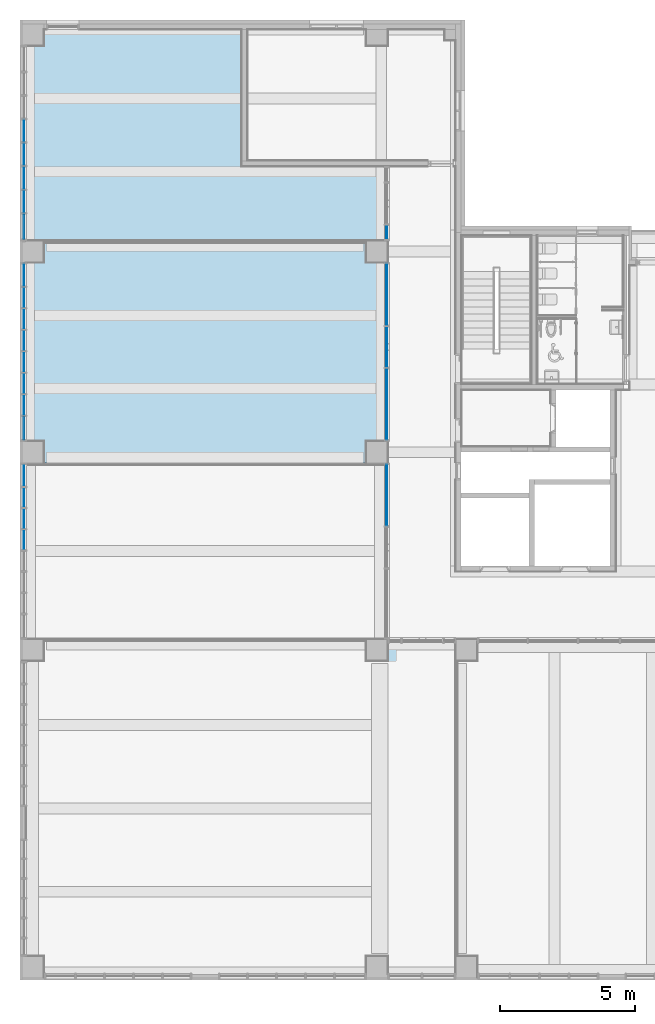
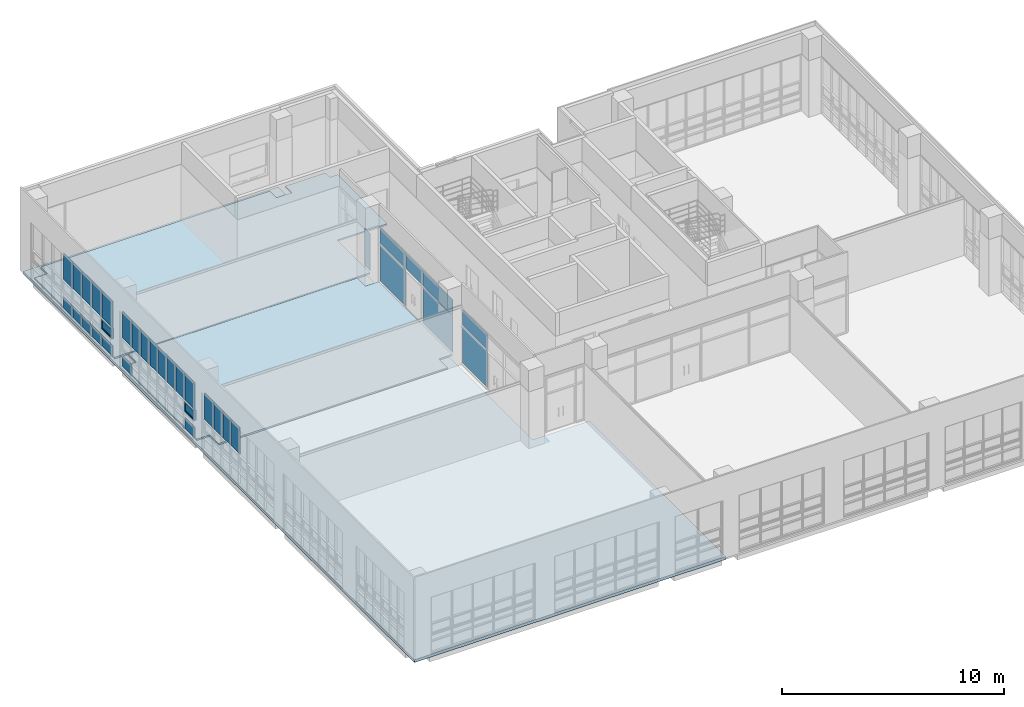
# One storey, part 34 of 74: 34 plates, 3 slabs, 6 elements without a shape of their own.
"""IFC2X3 building model written with IfcOpenShell, lengths in millimetres."""

from ifc_helpers import new_model, entity, si_unit, converted_unit, derived_unit, direction, frame, origin, origin_2d_with_axis, place, context, subcontext, project, spatial, polyline, rectangle, outline, extrude, source, transform, mapped, material, material_list, layer, layer_set, layer_usage, type_object, type_shapes, element, aggregate, save


model = new_model("IFC2X3")

# Units and contexts
model_context = context("Model", 3, precision=0.01, world=origin(), true_north=direction((6.123031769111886e-17, 1.0)))
body_context = subcontext(model_context, "Body", "Model", "MODEL_VIEW")
ifc_project = project(units=[si_unit("LENGTHUNIT", "METRE", prefix="MILLI"), si_unit("AREAUNIT", "SQUARE_METRE"), si_unit("VOLUMEUNIT", "CUBIC_METRE"), converted_unit("PLANEANGLEUNIT", "DEGREE", entity("IfcRatioMeasure", 0.017453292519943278), si_unit("PLANEANGLEUNIT", "RADIAN"), dimensions=[0, 0, 0, 0, 0, 0, 0]), si_unit("MASSUNIT", "GRAM", prefix="KILO"), derived_unit("MASSDENSITYUNIT", [(si_unit("MASSUNIT", "GRAM", prefix="KILO"), 1), (si_unit("LENGTHUNIT", "METRE"), -3)]), derived_unit("MOMENTOFINERTIAUNIT", [(si_unit("LENGTHUNIT", "METRE"), 4)]), si_unit("TIMEUNIT", "SECOND"), si_unit("FREQUENCYUNIT", "HERTZ"), si_unit("THERMODYNAMICTEMPERATUREUNIT", "DEGREE_CELSIUS"), derived_unit("THERMALTRANSMITTANCEUNIT", [(si_unit("MASSUNIT", "GRAM", prefix="KILO"), 1), (si_unit("THERMODYNAMICTEMPERATUREUNIT", "KELVIN"), -1), (si_unit("TIMEUNIT", "SECOND"), -3)]), derived_unit("VOLUMETRICFLOWRATEUNIT", [(si_unit("LENGTHUNIT", "METRE"), 3), (si_unit("TIMEUNIT", "SECOND"), -1)]), derived_unit("MASSFLOWRATEUNIT", [(si_unit("MASSUNIT", "GRAM", prefix="KILO"), 1), (si_unit("TIMEUNIT", "SECOND"), -1)]), derived_unit("ROTATIONALFREQUENCYUNIT", [(si_unit("TIMEUNIT", "SECOND"), -1)]), si_unit("ELECTRICCURRENTUNIT", "AMPERE"), si_unit("ELECTRICVOLTAGEUNIT", "VOLT"), si_unit("POWERUNIT", "WATT"), si_unit("FORCEUNIT", "NEWTON", prefix="KILO"), si_unit("ILLUMINANCEUNIT", "LUX"), si_unit("LUMINOUSFLUXUNIT", "LUMEN"), si_unit("LUMINOUSINTENSITYUNIT", "CANDELA"), derived_unit("USERDEFINED", [(si_unit("MASSUNIT", "GRAM", prefix="KILO"), -1), (si_unit("LENGTHUNIT", "METRE"), -2), (si_unit("TIMEUNIT", "SECOND"), 3), (si_unit("LUMINOUSFLUXUNIT", "LUMEN"), 1)]), derived_unit("SOUNDPOWERUNIT", [(si_unit("MASSUNIT", "GRAM", prefix="KILO"), 1), (si_unit("LENGTHUNIT", "METRE"), 2), (si_unit("TIMEUNIT", "SECOND"), -3)]), derived_unit("SOUNDPRESSUREUNIT", [(si_unit("MASSUNIT", "GRAM", prefix="KILO"), 1), (si_unit("LENGTHUNIT", "METRE"), -1), (si_unit("TIMEUNIT", "SECOND"), -2)]), derived_unit("LINEARVELOCITYUNIT", [(si_unit("LENGTHUNIT", "METRE"), 1), (si_unit("TIMEUNIT", "SECOND"), -1)]), si_unit("PRESSUREUNIT", "PASCAL"), derived_unit("USERDEFINED", [(si_unit("LENGTHUNIT", "METRE"), -2), (si_unit("MASSUNIT", "GRAM", prefix="KILO"), 1), (si_unit("TIMEUNIT", "SECOND"), -2)]), derived_unit("LINEARFORCEUNIT", [(si_unit("MASSUNIT", "GRAM", prefix="KILO"), 1), (si_unit("LENGTHUNIT", "METRE"), 1), (si_unit("TIMEUNIT", "SECOND"), -2), (si_unit("LENGTHUNIT", "METRE"), -1)]), derived_unit("PLANARFORCEUNIT", [(si_unit("MASSUNIT", "GRAM", prefix="KILO"), 1), (si_unit("LENGTHUNIT", "METRE"), 1), (si_unit("TIMEUNIT", "SECOND"), -2), (si_unit("LENGTHUNIT", "METRE"), -2)])], contexts=[model_context])

# Site, building, storey
site_placement = place(None, frame((-14167.972527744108, -657.2125860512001, 0.0)))
site = spatial("IfcSite", under=ifc_project, at=site_placement, Name="Default", CompositionType="ELEMENT")
building_placement = place(site_placement, origin())
building = spatial("IfcBuilding", under=site, at=building_placement, Name="Sample Building", CompositionType="ELEMENT")
storey_placement = place(building_placement, frame((0.0, 0.0, 4800.0)))
storey = spatial("IfcBuildingStorey", under=building, at=storey_placement, Name="지상 2층", CompositionType="ELEMENT", Elevation=4800.000000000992)

# Slabs
ifc_material_1 = material(Name="KBIMS-콘크리트")
ifc_layer_1 = layer(ifc_material_1, 150.0)
ifc_layer_set_1 = layer_set([ifc_layer_1], Name="바닥:SL111-철근콘크리트구조 바닥 150mm_S1")
ifc_layer_usage_1 = layer_usage(ifc_layer_set_1, "AXIS3", "POSITIVE", 0.0)
slab_type_1 = type_object("IfcSlabType", Name="바닥:SL111-철근콘크리트구조 바닥 150mm_S1", PredefinedType="FLOOR", material=ifc_layer_set_1)
slab_1_placement = place(storey_placement, origin())
element("IfcSlab", 1, at=slab_1_placement, inside=storey, type_object=slab_type_1, material=ifc_layer_usage_1, Name="바닥:SL111-철근콘크리트구조 바닥 150mm_S1", ObjectType="바닥:SL111-철근콘크리트구조 바닥 150mm_S1", PredefinedType="FLOOR", context=body_context, shape_type="SweptSolid", body=[
    extrude(outline(polyline([(-15833.333358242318, -9816.678283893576), (19366.666741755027, -9816.678283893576), (19366.666741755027, 3433.3478748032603), (-3533.333383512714, 3433.3478748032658), (-3533.3333835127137, 6383.330409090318), (-15833.333358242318, 6383.330409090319), (-15833.333358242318, -9816.678283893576)])), frame((23884.633389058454, 16390.54555338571, 0.0), z_axis=(0.0, 0.0, -1.0), x_axis=(0.0, 1.0, 0.0)), (0.0, 0.0, 1.0), 150.0),
])
ifc_material_2 = material(Name="SL341-테라조 바닥 (바탕48mm, 마감32mm)")
ifc_layer_2 = layer(ifc_material_2, 80.0)
ifc_layer_set_2 = layer_set([ifc_layer_2], Name="바닥:A1-14-06B-테라조타일 (80mm)")
ifc_layer_usage_2 = layer_usage(ifc_layer_set_2, "AXIS3", "POSITIVE", 0.0)
slab_type_2 = type_object("IfcSlabType", Name="바닥:A1-14-06B-테라조타일 (80mm)", PredefinedType="FLOOR", material=ifc_layer_set_2)
slab_2_placement = place(storey_placement, origin())
element("IfcSlab", 2, at=slab_2_placement, inside=storey, type_object=slab_type_2, material=ifc_layer_usage_2, Name="바닥:A1-14-06B-테라조타일 (80mm)", ObjectType="바닥:A1-14-06B-테라조타일 (80mm)", PredefinedType="FLOOR", context=body_context, shape_type="SweptSolid", body=[
    extrude(outline(polyline([(-5764.285698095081, -10179.999796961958), (1435.714274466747, -10179.999796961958), (1435.714274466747, -9504.999913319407), (2035.7142890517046, -9504.999913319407), (2035.7142890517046, 2395.0001232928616), (1435.714274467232, 2395.0001232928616), (1435.714274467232, 3195.000123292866), (2035.7142890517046, 3195.0001232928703), (2035.7142890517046, 5294.9913936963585), (1635.71430190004, 5294.9913936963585), (1635.71430190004, 5695.000123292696), (-2814.2857308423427, 5695.000123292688), (-2814.285730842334, 3105.007946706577), (-5764.285698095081, 3105.007946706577), (-5764.285698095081, -10179.999796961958)])), frame((24372.972367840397, 33521.498006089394, 80.0), z_axis=(0.0, 0.0, -1.0), x_axis=(0.0, 1.0, 0.0)), (0.0, 0.0, 1.0), 80.00000000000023),
])

# Curtain wall, plates
curtain_wall_type = type_object("IfcCurtainWallType", Name="커튼월:CW112-스테인리스 스틸 커튼월", PredefinedType="NOTDEFINED")
curtain_wall_1_placement = place(storey_placement, frame((0.0, 0.0, -4800.0)))
curtain_wall_1 = element("IfcCurtainWall", 3, at=curtain_wall_1_placement, inside=storey, type_object=curtain_wall_type, Name="커튼월:CW112-스테인리스 스틸 커튼월", ObjectType="커튼월:CW112-스테인리스 스틸 커튼월")
ifc_material_3 = material(Name="KBIMS-로이유리(코팅)")
plate_type_1 = type_object("IfcPlateType", Name="CW300-THK24.Low-e coating glass:CW300-THK24.Low-e coating glass", PredefinedType="CURTAIN_PANEL", material=ifc_material_3)
shared_shape_1 = source(origin(), body_context, "Body", "SweptSolid", [
    extrude(rectangle(XDim=24.000000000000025, YDim=818.7500000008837, at=origin_2d_with_axis()), frame((0.0, 0.0, 0.0), z_axis=(0.0, 0.0, 1.0), x_axis=(0.0, 1.0, 0.0)), (0.0, 0.0, 1.0), 575.0000000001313),
])
type_shapes(plate_type_1, [shared_shape_1])
plate_1_placement = place(curtain_wall_1_placement, frame((14130.455105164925, 31816.58727524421, 4930.0), z_axis=(0.0, 0.0, 1.0), x_axis=(0.0, -1.0, 0.0)))
plate_1 = element("IfcPlate", 4, at=plate_1_placement, type_object=plate_type_1, material=ifc_material_3, Name="CW300-THK24.Low-e coating glass:CW300-THK24.Low-e coating glass", ObjectType="CW300-THK24.Low-e coating glass:CW300-THK24.Low-e coating glass", context=body_context, shape_type="MappedRepresentation", body=[
    mapped(shared_shape_1, transform((0.0, 0.0, 0.0), scale=1.0)),
])
plate_2_placement = place(curtain_wall_1_placement, frame((14130.455105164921, 30947.837275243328, 4930.0), z_axis=(0.0, 0.0, 1.0), x_axis=(0.0, -1.0, 0.0)))
plate_2 = element("IfcPlate", 5, at=plate_2_placement, type_object=plate_type_1, material=ifc_material_3, Name="CW300-THK24.Low-e coating glass:CW300-THK24.Low-e coating glass", ObjectType="CW300-THK24.Low-e coating glass:CW300-THK24.Low-e coating glass", context=body_context, shape_type="MappedRepresentation", body=[
    mapped(shared_shape_1, transform((0.0, 0.0, 0.0), scale=1.0)),
])
plate_3_placement = place(curtain_wall_1_placement, frame((14130.455105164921, 30079.087275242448, 4930.0), z_axis=(0.0, 0.0, 1.0), x_axis=(0.0, -1.0, 0.0)))
plate_3 = element("IfcPlate", 6, at=plate_3_placement, type_object=plate_type_1, material=ifc_material_3, Name="CW300-THK24.Low-e coating glass:CW300-THK24.Low-e coating glass", ObjectType="CW300-THK24.Low-e coating glass:CW300-THK24.Low-e coating glass", context=body_context, shape_type="MappedRepresentation", body=[
    mapped(shared_shape_1, transform((0.0, 0.0, 0.0), scale=1.0)),
])
plate_4_placement = place(curtain_wall_1_placement, frame((14130.45510516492, 29210.337275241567, 4930.0), z_axis=(0.0, 0.0, 1.0), x_axis=(0.0, -1.0, 0.0)))
plate_4 = element("IfcPlate", 7, at=plate_4_placement, type_object=plate_type_1, material=ifc_material_3, Name="CW300-THK24.Low-e coating glass:CW300-THK24.Low-e coating glass", ObjectType="CW300-THK24.Low-e coating glass:CW300-THK24.Low-e coating glass", context=body_context, shape_type="MappedRepresentation", body=[
    mapped(shared_shape_1, transform((0.0, 0.0, 0.0), scale=1.0)),
])
plate_type_2 = type_object("IfcPlateType", Name="CW300-THK24.Low-e coating glass:CW300-THK24.Low-e coating glass", PredefinedType="CURTAIN_PANEL", material=ifc_material_3)
shared_shape_2 = source(origin(), body_context, "Body", "SweptSolid", [
    extrude(rectangle(XDim=24.000000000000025, YDim=943.7500000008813, at=origin_2d_with_axis()), frame((0.0, 0.0, 0.0), z_axis=(0.0, 0.0, 1.0), x_axis=(0.0, 1.0, 0.0)), (0.0, 0.0, 1.0), 575.0000000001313),
])
type_shapes(plate_type_2, [shared_shape_2])
plate_5_placement = place(curtain_wall_1_placement, frame((14130.45510516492, 28279.087275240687, 4930.0), z_axis=(0.0, 0.0, 1.0), x_axis=(0.0, -1.0, 0.0)))
plate_5 = element("IfcPlate", 8, at=plate_5_placement, type_object=plate_type_2, material=ifc_material_3, Name="CW300-THK24.Low-e coating glass:CW300-THK24.Low-e coating glass", ObjectType="CW300-THK24.Low-e coating glass:CW300-THK24.Low-e coating glass", context=body_context, shape_type="MappedRepresentation", body=[
    mapped(shared_shape_2, transform((0.0, 0.0, 0.0), scale=1.0)),
])
ifc_material_4 = material(Name="KBIMS-유리")
ifc_material_5 = material(Name="KBIMS-알루미늄")
ifc_material_list_1 = material_list([ifc_material_4, ifc_material_5])
ifc_material_list_2 = material_list([ifc_material_4, ifc_material_5])
plate_type_3 = type_object("IfcPlateType", Name="CW410-프로젝트 창:CW410-프로젝트 창 (하부개폐)", PredefinedType="CURTAIN_PANEL", material=ifc_material_list_2)
shared_shape_3 = source(origin(), body_context, "Body", "SweptSolid", [
    extrude(rectangle(XDim=843.750000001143, YDim=23.999999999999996, at=origin_2d_with_axis()), frame((0.0, -0.04999999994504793, 50.0), z_axis=(0.0, 0.0, 1.0), x_axis=(-1.0, 0.0, 0.0)), (0.0, 0.0, 1.0), 450.0000000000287),
    extrude(outline(polyline([(-471.8750000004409, -275.0), (471.8750000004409, -275.0), (471.8750000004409, 275.0), (-471.8750000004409, 275.0), (-471.8750000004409, -275.0)]), holes=[polyline([(-421.8750000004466, -225.0), (-421.8750000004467, 225.0), (421.87500000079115, 225.0), (421.8750000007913, -225.0), (-421.8750000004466, -225.0)])]), frame((0.0, -50.04999999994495, 275.0), z_axis=(0.0, 1.0, 0.0), x_axis=(1.0, 0.0, 0.0)), (0.0, 0.0, 1.0), 99.99999999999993),
])
type_shapes(plate_type_3, [shared_shape_3])
plate_6_placement = place(curtain_wall_1_placement, frame((14130.45510516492, 28279.087275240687, 5905.0), z_axis=(0.0, 0.0, 1.0), x_axis=(0.0, -1.0, 0.0)))
plate_6 = element("IfcPlate", 9, at=plate_6_placement, type_object=plate_type_3, material=ifc_material_list_1, Name="CW410-프로젝트 창:CW410-프로젝트 창 (하부개폐)", ObjectType="CW410-프로젝트 창:CW410-프로젝트 창 (하부개폐)", context=body_context, shape_type="MappedRepresentation", body=[
    mapped(shared_shape_3, transform((0.0, 0.0, 0.0), scale=1.0)),
])
plate_type_4 = type_object("IfcPlateType", Name="CW300-THK24.Low-e coating glass:CW300-THK24.Low-e coating glass", PredefinedType="CURTAIN_PANEL", material=ifc_material_3)
shared_shape_4 = source(origin(), body_context, "Body", "SweptSolid", [
    extrude(rectangle(XDim=24.000000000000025, YDim=818.7500000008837, at=origin_2d_with_axis()), frame((0.0, 0.0, 0.0), z_axis=(0.0, 0.0, 1.0), x_axis=(0.0, 1.0, 0.0)), (0.0, 0.0, 1.0), 1445.0000000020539),
])
type_shapes(plate_type_4, [shared_shape_4])
plate_7_placement = place(curtain_wall_1_placement, frame((14130.455105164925, 31816.58727524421, 6505.0), z_axis=(0.0, 0.0, 1.0), x_axis=(0.0, -1.0, 0.0)))
plate_7 = element("IfcPlate", 10, at=plate_7_placement, type_object=plate_type_4, material=ifc_material_3, Name="CW300-THK24.Low-e coating glass:CW300-THK24.Low-e coating glass", ObjectType="CW300-THK24.Low-e coating glass:CW300-THK24.Low-e coating glass", context=body_context, shape_type="MappedRepresentation", body=[
    mapped(shared_shape_4, transform((0.0, 0.0, 0.0), scale=1.0)),
])
plate_8_placement = place(curtain_wall_1_placement, frame((14130.455105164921, 30947.837275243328, 6505.0), z_axis=(0.0, 0.0, 1.0), x_axis=(0.0, -1.0, 0.0)))
plate_8 = element("IfcPlate", 11, at=plate_8_placement, type_object=plate_type_4, material=ifc_material_3, Name="CW300-THK24.Low-e coating glass:CW300-THK24.Low-e coating glass", ObjectType="CW300-THK24.Low-e coating glass:CW300-THK24.Low-e coating glass", context=body_context, shape_type="MappedRepresentation", body=[
    mapped(shared_shape_4, transform((0.0, 0.0, 0.0), scale=1.0)),
])
plate_9_placement = place(curtain_wall_1_placement, frame((14130.455105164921, 30079.087275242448, 6505.0), z_axis=(0.0, 0.0, 1.0), x_axis=(0.0, -1.0, 0.0)))
plate_9 = element("IfcPlate", 12, at=plate_9_placement, type_object=plate_type_4, material=ifc_material_3, Name="CW300-THK24.Low-e coating glass:CW300-THK24.Low-e coating glass", ObjectType="CW300-THK24.Low-e coating glass:CW300-THK24.Low-e coating glass", context=body_context, shape_type="MappedRepresentation", body=[
    mapped(shared_shape_4, transform((0.0, 0.0, 0.0), scale=1.0)),
])
plate_10_placement = place(curtain_wall_1_placement, frame((14130.45510516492, 29210.337275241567, 6505.0), z_axis=(0.0, 0.0, 1.0), x_axis=(0.0, -1.0, 0.0)))
plate_10 = element("IfcPlate", 13, at=plate_10_placement, type_object=plate_type_4, material=ifc_material_3, Name="CW300-THK24.Low-e coating glass:CW300-THK24.Low-e coating glass", ObjectType="CW300-THK24.Low-e coating glass:CW300-THK24.Low-e coating glass", context=body_context, shape_type="MappedRepresentation", body=[
    mapped(shared_shape_4, transform((0.0, 0.0, 0.0), scale=1.0)),
])
plate_type_5 = type_object("IfcPlateType", Name="CW300-THK24.Low-e coating glass:CW300-THK24.Low-e coating glass", PredefinedType="CURTAIN_PANEL", material=ifc_material_3)
shared_shape_5 = source(origin(), body_context, "Body", "SweptSolid", [
    extrude(rectangle(XDim=24.000000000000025, YDim=943.7500000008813, at=origin_2d_with_axis()), frame((0.0, 0.0, 0.0), z_axis=(0.0, 0.0, 1.0), x_axis=(0.0, 1.0, 0.0)), (0.0, 0.0, 1.0), 1445.0000000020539),
])
type_shapes(plate_type_5, [shared_shape_5])
plate_11_placement = place(curtain_wall_1_placement, frame((14130.45510516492, 28279.087275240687, 6505.0), z_axis=(0.0, 0.0, 1.0), x_axis=(0.0, -1.0, 0.0)))
plate_11 = element("IfcPlate", 14, at=plate_11_placement, type_object=plate_type_5, material=ifc_material_3, Name="CW300-THK24.Low-e coating glass:CW300-THK24.Low-e coating glass", ObjectType="CW300-THK24.Low-e coating glass:CW300-THK24.Low-e coating glass", context=body_context, shape_type="MappedRepresentation", body=[
    mapped(shared_shape_5, transform((0.0, 0.0, 0.0), scale=1.0)),
])
aggregate(curtain_wall_1, [plate_1, plate_2, plate_3, plate_4, plate_5, plate_6, plate_7, plate_8, plate_9, plate_10, plate_11])

curtain_wall_2_placement = place(storey_placement, frame((0.0, 0.0, -4800.0)))
curtain_wall_2 = element("IfcCurtainWall", 15, at=curtain_wall_2_placement, inside=storey, type_object=curtain_wall_type, Name="커튼월:CW112-스테인리스 스틸 커튼월", ObjectType="커튼월:CW112-스테인리스 스틸 커튼월")
plate_type_6 = type_object("IfcPlateType", Name="CW300-THK24.Low-e coating glass:CW300-THK24.Low-e coating glass", PredefinedType="CURTAIN_PANEL", material=ifc_material_3)
shared_shape_6 = source(origin(), body_context, "Body", "SweptSolid", [
    extrude(rectangle(XDim=818.732615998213, YDim=24.000000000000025, at=origin_2d_with_axis()), frame((0.0, 0.0, 0.0), z_axis=(0.0, 0.0, 1.0), x_axis=(-1.0, 0.0, 0.0)), (0.0, 0.0, 1.0), 575.0000000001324),
])
type_shapes(plate_type_6, [shared_shape_6])
plate_12_placement = place(curtain_wall_2_placement, frame((14129.839654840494, 26497.82858324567, 4930.0), z_axis=(0.0, 0.0, 1.0), x_axis=(0.0, -1.0, 0.0)))
plate_12 = element("IfcPlate", 16, at=plate_12_placement, type_object=plate_type_6, material=ifc_material_3, Name="CW300-THK24.Low-e coating glass:CW300-THK24.Low-e coating glass", ObjectType="CW300-THK24.Low-e coating glass:CW300-THK24.Low-e coating glass", context=body_context, shape_type="MappedRepresentation", body=[
    mapped(shared_shape_6, transform((0.0, 0.0, 0.0), scale=1.0)),
])
plate_type_7 = type_object("IfcPlateType", Name="CW300-THK24.Low-e coating glass:CW300-THK24.Low-e coating glass", PredefinedType="CURTAIN_PANEL", material=ifc_material_3)
shared_shape_7 = source(origin(), body_context, "Body", "SweptSolid", [
    extrude(rectangle(XDim=868.7673840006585, YDim=24.000000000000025, at=origin_2d_with_axis()), frame((0.0, 0.0, 0.0), z_axis=(0.0, 0.0, 1.0), x_axis=(-1.0, 0.0, 0.0)), (0.0, 0.0, 1.0), 575.0000000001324),
])
type_shapes(plate_type_7, [shared_shape_7])
plate_13_placement = place(curtain_wall_2_placement, frame((14129.839654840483, 20841.57858324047, 4930.0), z_axis=(0.0, 0.0, 1.0), x_axis=(0.0, -1.0, 0.0)))
plate_13 = element("IfcPlate", 17, at=plate_13_placement, type_object=plate_type_7, material=ifc_material_3, Name="CW300-THK24.Low-e coating glass:CW300-THK24.Low-e coating glass", ObjectType="CW300-THK24.Low-e coating glass:CW300-THK24.Low-e coating glass", context=body_context, shape_type="MappedRepresentation", body=[
    mapped(shared_shape_7, transform((0.0, 0.0, 0.0), scale=1.0)),
])
ifc_material_list_3 = material_list([ifc_material_4, ifc_material_5])
ifc_material_list_4 = material_list([ifc_material_4, ifc_material_5])
plate_type_8 = type_object("IfcPlateType", Name="CW410-프로젝트 창:CW410-프로젝트 창 (하부개폐)", PredefinedType="CURTAIN_PANEL", material=ifc_material_list_4)
shared_shape_8 = source(origin(), body_context, "Body", "SweptSolid", [
    extrude(rectangle(XDim=768.7673840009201, YDim=23.999999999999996, at=origin_2d_with_axis()), frame((0.0, -0.04999999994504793, 50.0), z_axis=(0.0, 0.0, 1.0), x_axis=(-1.0, 0.0, 0.0)), (0.0, 0.0, 1.0), 450.0000000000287),
    extrude(outline(polyline([(-434.3836920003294, -275.0), (434.3836920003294, -275.0), (434.3836920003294, 275.0), (-434.3836920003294, 275.0), (-434.3836920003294, -275.0)]), holes=[polyline([(-384.38369200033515, -225.0), (-384.38369200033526, 225.0), (384.38369200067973, 225.0), (384.38369200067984, -225.0), (-384.38369200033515, -225.0)])]), frame((0.0, -50.04999999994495, 275.0), z_axis=(0.0, 1.0, 0.0), x_axis=(1.0, 0.0, 0.0)), (0.0, 0.0, 1.0), 99.99999999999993),
])
type_shapes(plate_type_8, [shared_shape_8])
plate_14_placement = place(curtain_wall_2_placement, frame((14129.839654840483, 20841.57858324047, 5905.0), z_axis=(0.0, 0.0, 1.0), x_axis=(0.0, -1.0, 0.0)))
plate_14 = element("IfcPlate", 18, at=plate_14_placement, type_object=plate_type_8, material=ifc_material_list_3, Name="CW410-프로젝트 창:CW410-프로젝트 창 (하부개폐)", ObjectType="CW410-프로젝트 창:CW410-프로젝트 창 (하부개폐)", context=body_context, shape_type="MappedRepresentation", body=[
    mapped(shared_shape_8, transform((0.0, 0.0, 0.0), scale=1.0)),
])
plate_type_9 = type_object("IfcPlateType", Name="CW300-THK24.Low-e coating glass:CW300-THK24.Low-e coating glass", PredefinedType="CURTAIN_PANEL", material=ifc_material_3)
shared_shape_9 = source(origin(), body_context, "Body", "SweptSolid", [
    extrude(rectangle(XDim=818.732615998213, YDim=24.000000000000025, at=origin_2d_with_axis()), frame((0.0, 0.0, 0.0), z_axis=(0.0, 0.0, 1.0), x_axis=(-1.0, 0.0, 0.0)), (0.0, 0.0, 1.0), 1445.0000000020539),
])
type_shapes(plate_type_9, [shared_shape_9])
plate_15_placement = place(curtain_wall_2_placement, frame((14129.839654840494, 26497.82858324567, 6505.0), z_axis=(0.0, 0.0, 1.0), x_axis=(0.0, -1.0, 0.0)))
plate_15 = element("IfcPlate", 19, at=plate_15_placement, type_object=plate_type_9, material=ifc_material_3, Name="CW300-THK24.Low-e coating glass:CW300-THK24.Low-e coating glass", ObjectType="CW300-THK24.Low-e coating glass:CW300-THK24.Low-e coating glass", context=body_context, shape_type="MappedRepresentation", body=[
    mapped(shared_shape_9, transform((0.0, 0.0, 0.0), scale=1.0)),
])
plate_type_10 = type_object("IfcPlateType", Name="CW300-THK24.Low-e coating glass:CW300-THK24.Low-e coating glass", PredefinedType="CURTAIN_PANEL", material=ifc_material_3)
shared_shape_10 = source(origin(), body_context, "Body", "SweptSolid", [
    extrude(rectangle(XDim=743.7500000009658, YDim=24.000000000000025, at=origin_2d_with_axis()), frame((0.0, 0.0, 0.0), z_axis=(0.0, 0.0, 1.0), x_axis=(-1.0, 0.0, 0.0)), (0.0, 0.0, 1.0), 1445.0000000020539),
])
type_shapes(plate_type_10, [shared_shape_10])
plate_16_placement = place(curtain_wall_2_placement, frame((14129.839654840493, 25666.587275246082, 6505.0), z_axis=(0.0, 0.0, 1.0), x_axis=(0.0, -1.0, 0.0)))
plate_16 = element("IfcPlate", 20, at=plate_16_placement, type_object=plate_type_10, material=ifc_material_3, Name="CW300-THK24.Low-e coating glass:CW300-THK24.Low-e coating glass", ObjectType="CW300-THK24.Low-e coating glass:CW300-THK24.Low-e coating glass", context=body_context, shape_type="MappedRepresentation", body=[
    mapped(shared_shape_10, transform((0.0, 0.0, 0.0), scale=1.0)),
])
plate_17_placement = place(curtain_wall_2_placement, frame((14129.839654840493, 24872.837275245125, 6505.0), z_axis=(0.0, 0.0, 1.0), x_axis=(0.0, -1.0, 0.0)))
plate_17 = element("IfcPlate", 21, at=plate_17_placement, type_object=plate_type_10, material=ifc_material_3, Name="CW300-THK24.Low-e coating glass:CW300-THK24.Low-e coating glass", ObjectType="CW300-THK24.Low-e coating glass:CW300-THK24.Low-e coating glass", context=body_context, shape_type="MappedRepresentation", body=[
    mapped(shared_shape_10, transform((0.0, 0.0, 0.0), scale=1.0)),
])
plate_18_placement = place(curtain_wall_2_placement, frame((14129.83965484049, 24079.087275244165, 6505.0), z_axis=(0.0, 0.0, 1.0), x_axis=(0.0, -1.0, 0.0)))
plate_18 = element("IfcPlate", 22, at=plate_18_placement, type_object=plate_type_10, material=ifc_material_3, Name="CW300-THK24.Low-e coating glass:CW300-THK24.Low-e coating glass", ObjectType="CW300-THK24.Low-e coating glass:CW300-THK24.Low-e coating glass", context=body_context, shape_type="MappedRepresentation", body=[
    mapped(shared_shape_10, transform((0.0, 0.0, 0.0), scale=1.0)),
])
plate_19_placement = place(curtain_wall_2_placement, frame((14129.839654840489, 23285.337275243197, 6505.0), z_axis=(0.0, 0.0, 1.0), x_axis=(0.0, -1.0, 0.0)))
plate_19 = element("IfcPlate", 23, at=plate_19_placement, type_object=plate_type_10, material=ifc_material_3, Name="CW300-THK24.Low-e coating glass:CW300-THK24.Low-e coating glass", ObjectType="CW300-THK24.Low-e coating glass:CW300-THK24.Low-e coating glass", context=body_context, shape_type="MappedRepresentation", body=[
    mapped(shared_shape_10, transform((0.0, 0.0, 0.0), scale=1.0)),
])
plate_20_placement = place(curtain_wall_2_placement, frame((14129.839654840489, 22491.58727524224, 6505.0), z_axis=(0.0, 0.0, 1.0), x_axis=(0.0, -1.0, 0.0)))
plate_20 = element("IfcPlate", 24, at=plate_20_placement, type_object=plate_type_10, material=ifc_material_3, Name="CW300-THK24.Low-e coating glass:CW300-THK24.Low-e coating glass", ObjectType="CW300-THK24.Low-e coating glass:CW300-THK24.Low-e coating glass", context=body_context, shape_type="MappedRepresentation", body=[
    mapped(shared_shape_10, transform((0.0, 0.0, 0.0), scale=1.0)),
])
plate_21_placement = place(curtain_wall_2_placement, frame((14129.839654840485, 21697.83727524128, 6505.0), z_axis=(0.0, 0.0, 1.0), x_axis=(0.0, -1.0, 0.0)))
plate_21 = element("IfcPlate", 25, at=plate_21_placement, type_object=plate_type_10, material=ifc_material_3, Name="CW300-THK24.Low-e coating glass:CW300-THK24.Low-e coating glass", ObjectType="CW300-THK24.Low-e coating glass:CW300-THK24.Low-e coating glass", context=body_context, shape_type="MappedRepresentation", body=[
    mapped(shared_shape_10, transform((0.0, 0.0, 0.0), scale=1.0)),
])
plate_type_11 = type_object("IfcPlateType", Name="CW300-THK24.Low-e coating glass:CW300-THK24.Low-e coating glass", PredefinedType="CURTAIN_PANEL", material=ifc_material_3)
shared_shape_11 = source(origin(), body_context, "Body", "SweptSolid", [
    extrude(rectangle(XDim=868.7673840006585, YDim=24.000000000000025, at=origin_2d_with_axis()), frame((0.0, 0.0, 0.0), z_axis=(0.0, 0.0, 1.0), x_axis=(-1.0, 0.0, 0.0)), (0.0, 0.0, 1.0), 1445.0000000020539),
])
type_shapes(plate_type_11, [shared_shape_11])
plate_22_placement = place(curtain_wall_2_placement, frame((14129.839654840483, 20841.57858324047, 6505.0), z_axis=(0.0, 0.0, 1.0), x_axis=(0.0, -1.0, 0.0)))
plate_22 = element("IfcPlate", 26, at=plate_22_placement, type_object=plate_type_11, material=ifc_material_3, Name="CW300-THK24.Low-e coating glass:CW300-THK24.Low-e coating glass", ObjectType="CW300-THK24.Low-e coating glass:CW300-THK24.Low-e coating glass", context=body_context, shape_type="MappedRepresentation", body=[
    mapped(shared_shape_11, transform((0.0, 0.0, 0.0), scale=1.0)),
])
aggregate(curtain_wall_2, [plate_12, plate_13, plate_14, plate_15, plate_16, plate_17, plate_18, plate_19, plate_20, plate_21, plate_22])

curtain_wall_3_placement = place(storey_placement, frame((0.0, 0.0, -4800.0)))
curtain_wall_3 = element("IfcCurtainWall", 27, at=curtain_wall_3_placement, inside=storey, type_object=curtain_wall_type, Name="커튼월:CW112-스테인리스 스틸 커튼월", ObjectType="커튼월:CW112-스테인리스 스틸 커튼월")
plate_type_12 = type_object("IfcPlateType", Name="CW300-THK24.Low-e coating glass:CW300-THK24.Low-e coating glass", PredefinedType="CURTAIN_PANEL", material=ifc_material_3)
shared_shape_12 = source(origin(), body_context, "Body", "SweptSolid", [
    extrude(rectangle(XDim=806.2500327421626, YDim=24.000000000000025, at=origin_2d_with_axis()), frame((0.0, 0.0, 0.0), z_axis=(0.0, 0.0, 1.0), x_axis=(-1.0, 0.0, 0.0)), (0.0, 0.0, 1.0), 1445.0000000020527),
])
type_shapes(plate_type_12, [shared_shape_12])
plate_23_placement = place(curtain_wall_3_placement, frame((14130.472570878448, 19104.08729161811, 6505.0), z_axis=(0.0, 0.0, 1.0), x_axis=(0.0, -1.0, 0.0)))
plate_23 = element("IfcPlate", 28, at=plate_23_placement, type_object=plate_type_12, material=ifc_material_3, Name="CW300-THK24.Low-e coating glass:CW300-THK24.Low-e coating glass", ObjectType="CW300-THK24.Low-e coating glass:CW300-THK24.Low-e coating glass", context=body_context, shape_type="MappedRepresentation", body=[
    mapped(shared_shape_12, transform((0.0, 0.0, 0.0), scale=1.0)),
])
plate_type_13 = type_object("IfcPlateType", Name="CW300-THK24.Low-e coating glass:CW300-THK24.Low-e coating glass", PredefinedType="CURTAIN_PANEL", material=ifc_material_3)
shared_shape_13 = source(origin(), body_context, "Body", "SweptSolid", [
    extrude(rectangle(XDim=731.2499999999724, YDim=24.000000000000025, at=origin_2d_with_axis()), frame((0.0, 0.0, 0.0), z_axis=(0.0, 0.0, 1.0), x_axis=(-1.0, 0.0, 0.0)), (0.0, 0.0, 1.0), 1445.0000000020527),
])
type_shapes(plate_type_13, [shared_shape_13])
plate_24_placement = place(curtain_wall_3_placement, frame((14130.472570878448, 18285.33727524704, 6505.0), z_axis=(0.0, 0.0, 1.0), x_axis=(0.0, -1.0, 0.0)))
plate_24 = element("IfcPlate", 29, at=plate_24_placement, type_object=plate_type_13, material=ifc_material_3, Name="CW300-THK24.Low-e coating glass:CW300-THK24.Low-e coating glass", ObjectType="CW300-THK24.Low-e coating glass:CW300-THK24.Low-e coating glass", context=body_context, shape_type="MappedRepresentation", body=[
    mapped(shared_shape_13, transform((0.0, 0.0, 0.0), scale=1.0)),
])
plate_25_placement = place(curtain_wall_3_placement, frame((14130.472570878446, 17504.087275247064, 6505.0), z_axis=(0.0, 0.0, 1.0), x_axis=(0.0, -1.0, 0.0)))
plate_25 = element("IfcPlate", 30, at=plate_25_placement, type_object=plate_type_13, material=ifc_material_3, Name="CW300-THK24.Low-e coating glass:CW300-THK24.Low-e coating glass", ObjectType="CW300-THK24.Low-e coating glass:CW300-THK24.Low-e coating glass", context=body_context, shape_type="MappedRepresentation", body=[
    mapped(shared_shape_13, transform((0.0, 0.0, 0.0), scale=1.0)),
])
plate_26_placement = place(curtain_wall_3_placement, frame((14130.472570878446, 16722.83727524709, 6505.0), z_axis=(0.0, 0.0, 1.0), x_axis=(0.0, -1.0, 0.0)))
plate_26 = element("IfcPlate", 31, at=plate_26_placement, type_object=plate_type_13, material=ifc_material_3, Name="CW300-THK24.Low-e coating glass:CW300-THK24.Low-e coating glass", ObjectType="CW300-THK24.Low-e coating glass:CW300-THK24.Low-e coating glass", context=body_context, shape_type="MappedRepresentation", body=[
    mapped(shared_shape_13, transform((0.0, 0.0, 0.0), scale=1.0)),
])
aggregate(curtain_wall_3, [plate_23, plate_24, plate_25, plate_26])

curtain_wall_4_placement = place(storey_placement, frame((0.0, 0.0, -4800.0)))
curtain_wall_4 = element("IfcCurtainWall", 32, at=curtain_wall_4_placement, inside=storey, type_object=curtain_wall_type, Name="커튼월:CW112-스테인리스 스틸 커튼월", ObjectType="커튼월:CW112-스테인리스 스틸 커튼월")
plate_type_14 = type_object("IfcPlateType", Name="CW300-THK24.Low-e coating glass:CW300-THK24.Low-e coating glass", PredefinedType="CURTAIN_PANEL", material=ifc_material_3)
shared_shape_14 = source(origin(), body_context, "Body", "SweptSolid", [
    extrude(rectangle(XDim=2265.0000000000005, YDim=24.000000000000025, at=origin_2d_with_axis()), frame((0.0, 0.0, 0.0), z_axis=(0.0, 0.0, 1.0), x_axis=(-1.0, 0.0, 0.0)), (0.0, 0.0, 1.0), 2024.9999999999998),
])
type_shapes(plate_type_14, [shared_shape_14])
plate_27_placement = place(curtain_wall_4_placement, frame((27522.955105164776, 25774.712307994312, 4930.0), z_axis=(0.0, 0.0, 1.0), x_axis=(0.0, -1.0, 0.0)))
plate_27 = element("IfcPlate", 33, at=plate_27_placement, type_object=plate_type_14, material=ifc_material_3, Name="CW300-THK24.Low-e coating glass:CW300-THK24.Low-e coating glass", ObjectType="CW300-THK24.Low-e coating glass:CW300-THK24.Low-e coating glass", context=body_context, shape_type="MappedRepresentation", body=[
    mapped(shared_shape_14, transform((0.0, 0.0, 0.0), scale=1.0)),
])
plate_type_15 = type_object("IfcPlateType", Name="CW300-THK24.Low-e coating glass:CW300-THK24.Low-e coating glass", PredefinedType="CURTAIN_PANEL", material=ifc_material_3)
shared_shape_15 = source(origin(), body_context, "Body", "SweptSolid", [
    extrude(rectangle(XDim=2634.9999999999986, YDim=24.000000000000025, at=origin_2d_with_axis()), frame((0.0, 0.0, 0.0), z_axis=(0.0, 0.0, 1.0), x_axis=(-1.0, 0.0, 0.0)), (0.0, 0.0, 1.0), 2024.9999999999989),
])
type_shapes(plate_type_15, [shared_shape_15])
plate_28_placement = place(curtain_wall_4_placement, frame((27522.95510516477, 21724.712307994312, 4930.0), z_axis=(0.0, 0.0, 1.0), x_axis=(0.0, -1.0, 0.0)))
plate_28 = element("IfcPlate", 34, at=plate_28_placement, type_object=plate_type_15, material=ifc_material_3, Name="CW300-THK24.Low-e coating glass:CW300-THK24.Low-e coating glass", ObjectType="CW300-THK24.Low-e coating glass:CW300-THK24.Low-e coating glass", context=body_context, shape_type="MappedRepresentation", body=[
    mapped(shared_shape_15, transform((0.0, 0.0, 0.0), scale=1.0)),
])
plate_type_16 = type_object("IfcPlateType", Name="CW300-THK24.Low-e coating glass:CW300-THK24.Low-e coating glass", PredefinedType="CURTAIN_PANEL", material=ifc_material_3)
shared_shape_16 = source(origin(), body_context, "Body", "SweptSolid", [
    extrude(rectangle(XDim=2265.0000000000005, YDim=24.000000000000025, at=origin_2d_with_axis()), frame((0.0, 0.0, 0.0), z_axis=(0.0, 0.0, 1.0), x_axis=(-1.0, 0.0, 0.0)), (0.0, 0.0, 1.0), 845.0000000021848),
])
type_shapes(plate_type_16, [shared_shape_16])
plate_29_placement = place(curtain_wall_4_placement, frame((27522.955105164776, 25774.712307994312, 7005.0), z_axis=(0.0, 0.0, 1.0), x_axis=(0.0, -1.0, 0.0)))
plate_29 = element("IfcPlate", 35, at=plate_29_placement, type_object=plate_type_16, material=ifc_material_3, Name="CW300-THK24.Low-e coating glass:CW300-THK24.Low-e coating glass", ObjectType="CW300-THK24.Low-e coating glass:CW300-THK24.Low-e coating glass", context=body_context, shape_type="MappedRepresentation", body=[
    mapped(shared_shape_16, transform((0.0, 0.0, 0.0), scale=1.0)),
])
plate_type_17 = type_object("IfcPlateType", Name="CW300-THK24.Low-e coating glass:CW300-THK24.Low-e coating glass", PredefinedType="CURTAIN_PANEL", material=ifc_material_3)
shared_shape_17 = source(origin(), body_context, "Body", "SweptSolid", [
    extrude(rectangle(XDim=1500.0000000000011, YDim=24.000000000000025, at=origin_2d_with_axis()), frame((0.0, 0.0, 0.0), z_axis=(0.0, 0.0, 1.0), x_axis=(-1.0, 0.0, 0.0)), (0.0, 0.0, 1.0), 845.0000000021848),
])
type_shapes(plate_type_17, [shared_shape_17])
plate_30_placement = place(curtain_wall_4_placement, frame((27522.955105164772, 23842.21230799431, 7005.0), z_axis=(0.0, 0.0, 1.0), x_axis=(0.0, -1.0, 0.0)))
plate_30 = element("IfcPlate", 36, at=plate_30_placement, type_object=plate_type_17, material=ifc_material_3, Name="CW300-THK24.Low-e coating glass:CW300-THK24.Low-e coating glass", ObjectType="CW300-THK24.Low-e coating glass:CW300-THK24.Low-e coating glass", context=body_context, shape_type="MappedRepresentation", body=[
    mapped(shared_shape_17, transform((0.0, 0.0, 0.0), scale=1.0)),
])
plate_type_18 = type_object("IfcPlateType", Name="CW300-THK24.Low-e coating glass:CW300-THK24.Low-e coating glass", PredefinedType="CURTAIN_PANEL", material=ifc_material_3)
shared_shape_18 = source(origin(), body_context, "Body", "SweptSolid", [
    extrude(rectangle(XDim=2634.9999999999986, YDim=24.000000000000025, at=origin_2d_with_axis()), frame((0.0, 0.0, 0.0), z_axis=(0.0, 0.0, 1.0), x_axis=(-1.0, 0.0, 0.0)), (0.0, 0.0, 1.0), 845.0000000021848),
])
type_shapes(plate_type_18, [shared_shape_18])
plate_31_placement = place(curtain_wall_4_placement, frame((27522.95510516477, 21724.712307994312, 7005.0), z_axis=(0.0, 0.0, 1.0), x_axis=(0.0, -1.0, 0.0)))
plate_31 = element("IfcPlate", 37, at=plate_31_placement, type_object=plate_type_18, material=ifc_material_3, Name="CW300-THK24.Low-e coating glass:CW300-THK24.Low-e coating glass", ObjectType="CW300-THK24.Low-e coating glass:CW300-THK24.Low-e coating glass", context=body_context, shape_type="MappedRepresentation", body=[
    mapped(shared_shape_18, transform((0.0, 0.0, 0.0), scale=1.0)),
])
aggregate(curtain_wall_4, [plate_27, plate_28, plate_29, plate_30, plate_31])

curtain_wall_5_placement = place(storey_placement, frame((0.0, 0.0, -4800.0)))
curtain_wall_5 = element("IfcCurtainWall", 38, at=curtain_wall_5_placement, inside=storey, type_object=curtain_wall_type, Name="커튼월:CW112-스테인리스 스틸 커튼월", ObjectType="커튼월:CW112-스테인리스 스틸 커튼월")
plate_type_19 = type_object("IfcPlateType", Name="CW300-THK24.Low-e coating glass:CW300-THK24.Low-e coating glass", PredefinedType="CURTAIN_PANEL", material=ifc_material_3)
shared_shape_19 = source(origin(), body_context, "Body", "SweptSolid", [
    extrude(rectangle(XDim=2265.034683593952, YDim=24.000000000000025, at=origin_2d_with_axis()), frame((0.0, 0.0, 0.0), z_axis=(0.0, 0.0, 1.0), x_axis=(-1.0, 0.0, 0.0)), (0.0, 0.0, 1.0), 2024.9999999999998),
])
type_shapes(plate_type_19, [shared_shape_19])
plate_32_placement = place(curtain_wall_5_placement, frame((27522.972491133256, 18374.69496619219, 4930.0), z_axis=(0.0, 0.0, 1.0), x_axis=(0.0, -1.0, 0.0)))
plate_32 = element("IfcPlate", 39, at=plate_32_placement, type_object=plate_type_19, material=ifc_material_3, Name="CW300-THK24.Low-e coating glass:CW300-THK24.Low-e coating glass", ObjectType="CW300-THK24.Low-e coating glass:CW300-THK24.Low-e coating glass", context=body_context, shape_type="MappedRepresentation", body=[
    mapped(shared_shape_19, transform((0.0, 0.0, 0.0), scale=1.0)),
])
plate_type_20 = type_object("IfcPlateType", Name="CW300-THK24.Low-e coating glass:CW300-THK24.Low-e coating glass", PredefinedType="CURTAIN_PANEL", material=ifc_material_3)
shared_shape_20 = source(origin(), body_context, "Body", "SweptSolid", [
    extrude(rectangle(XDim=2265.034683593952, YDim=24.000000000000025, at=origin_2d_with_axis()), frame((0.0, 0.0, 0.0), z_axis=(0.0, 0.0, 1.0), x_axis=(-1.0, 0.0, 0.0)), (0.0, 0.0, 1.0), 845.0000000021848),
])
type_shapes(plate_type_20, [shared_shape_20])
plate_33_placement = place(curtain_wall_5_placement, frame((27522.972491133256, 18374.69496619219, 7005.0), z_axis=(0.0, 0.0, 1.0), x_axis=(0.0, -1.0, 0.0)))
plate_33 = element("IfcPlate", 40, at=plate_33_placement, type_object=plate_type_20, material=ifc_material_3, Name="CW300-THK24.Low-e coating glass:CW300-THK24.Low-e coating glass", ObjectType="CW300-THK24.Low-e coating glass:CW300-THK24.Low-e coating glass", context=body_context, shape_type="MappedRepresentation", body=[
    mapped(shared_shape_20, transform((0.0, 0.0, 0.0), scale=1.0)),
])
aggregate(curtain_wall_5, [plate_32, plate_33])

# Slab
ifc_layer_usage_3 = layer_usage(ifc_layer_set_2, "AXIS3", "POSITIVE", 0.0)
slab_type_3 = type_object("IfcSlabType", Name="바닥:A1-14-06B-테라조타일 (80mm)", PredefinedType="FLOOR", material=ifc_layer_set_2)
slab_3_placement = place(storey_placement, origin())
element("IfcSlab", 41, at=slab_3_placement, inside=storey, type_object=slab_type_3, material=ifc_layer_usage_3, Name="바닥:A1-14-06B-테라조타일 (80mm)", ObjectType="바닥:A1-14-06B-테라조타일 (80mm)", PredefinedType="FLOOR", context=body_context, shape_type="SweptSolid", body=[
    extrude(outline(polyline([(-3289.577599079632, -6630.8303570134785), (3310.422400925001, -6630.8303570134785), (3310.422400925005, -5955.830473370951), (4047.922678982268, -5955.830473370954), (4047.92267898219, 5944.169563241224), (3310.4224009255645, 5944.169563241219), (3310.4224009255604, 6654.15217727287), (-3289.5775990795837, 6654.152177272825), (-3289.5775990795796, 5944.169563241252), (-4089.612282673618, 5944.169563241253), (-4089.612282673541, -5955.83047337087), (-3289.577599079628, -5955.830473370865), (-3289.577599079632, -6630.8303570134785)])), frame((20823.80292789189, 23646.78990706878, 80.0), z_axis=(0.0, 0.0, -1.0), x_axis=(0.0, 1.0, 0.0)), (0.0, 0.0, 1.0), 80.00000000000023),
])

# Curtain wall, plate
curtain_wall_6_placement = place(storey_placement, frame((0.0, 0.0, -4800.0)))
curtain_wall_6 = element("IfcCurtainWall", 42, at=curtain_wall_6_placement, inside=storey, type_object=curtain_wall_type, Name="커튼월:CW112-스테인리스 스틸 커튼월", ObjectType="커튼월:CW112-스테인리스 스틸 커튼월")
plate_type_21 = type_object("IfcPlateType", Name="CW300-THK24.Low-e coating glass:CW300-THK24.Low-e coating glass", PredefinedType="CURTAIN_PANEL", material=ifc_material_3)
shared_shape_21 = source(origin(), body_context, "Body", "SweptSolid", [
    extrude(rectangle(XDim=519.9999999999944, YDim=24.000000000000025, at=origin_2d_with_axis()), frame((0.0, 0.0, 0.0), z_axis=(0.0, 0.0, 1.0), x_axis=(-1.0, 0.0, 0.0)), (0.0, 0.0, 1.0), 2025.000000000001),
])
type_shapes(plate_type_21, [shared_shape_21])
plate_34_placement = place(curtain_wall_6_placement, frame((27522.98031454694, 28067.212586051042, 4930.0), z_axis=(0.0, 0.0, 1.0), x_axis=(0.0, -1.0, 0.0)))
plate_34 = element("IfcPlate", 43, at=plate_34_placement, type_object=plate_type_21, material=ifc_material_3, Name="CW300-THK24.Low-e coating glass:CW300-THK24.Low-e coating glass", ObjectType="CW300-THK24.Low-e coating glass:CW300-THK24.Low-e coating glass", context=body_context, shape_type="MappedRepresentation", body=[
    mapped(shared_shape_21, transform((0.0, 0.0, 0.0), scale=1.0)),
])
aggregate(curtain_wall_6, [plate_34])

save(model, "model.ifc")
